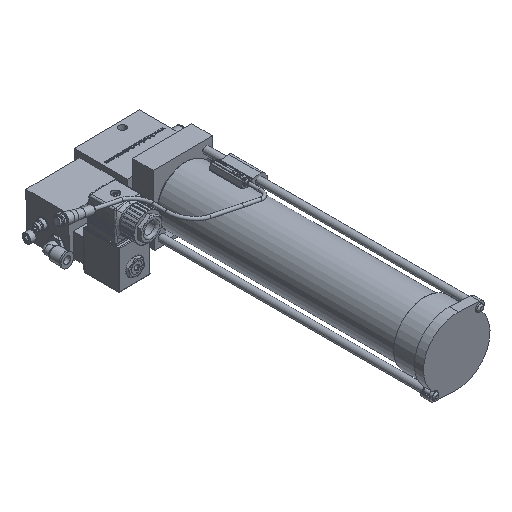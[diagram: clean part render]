
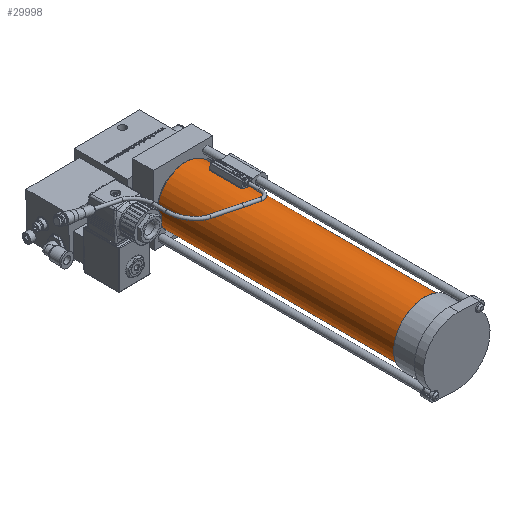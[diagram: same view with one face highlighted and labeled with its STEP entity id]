
A CAD part, isometric view. The second image highlights one B-rep face of the part: STEP entity #29998.
In plain terms, the highlighted cylindrical face has radius 26.5 mm (diameter 53 mm), a full revolution.
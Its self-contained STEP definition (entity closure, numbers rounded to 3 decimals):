
#2707 = CARTESIAN_POINT ( 'NONE',  ( 0., 0., 0. ) ) ;
#3166 = ORIENTED_EDGE ( 'NONE', *, *, #39218, .T. ) ;
#5753 = AXIS2_PLACEMENT_3D ( 'NONE', #44787, #30554, #22572 ) ;
#7218 = DIRECTION ( 'NONE',  ( 0., 0., 1. ) ) ;
#8063 = EDGE_LOOP ( 'NONE', ( #47138 ) ) ;
#13701 = CYLINDRICAL_SURFACE ( 'NONE', #5753, 26.5 ) ;
#17212 = CARTESIAN_POINT ( 'NONE',  ( 0., 0., 244. ) ) ;
#18024 = FACE_OUTER_BOUND ( 'NONE', #39129, .T. ) ;
#20502 = CIRCLE ( 'NONE', #34109, 26.5 ) ;
#20910 = DIRECTION ( 'NONE',  ( 0., 0., -1. ) ) ;
#21255 = AXIS2_PLACEMENT_3D ( 'NONE', #17212, #20910, #34564 ) ;
#21885 = CARTESIAN_POINT ( 'NONE',  ( 26.5, 0., 0. ) ) ;
#22572 = DIRECTION ( 'NONE',  ( -1., 0., 0. ) ) ;
#26135 = VERTEX_POINT ( 'NONE', #26988 ) ;
#26988 = CARTESIAN_POINT ( 'NONE',  ( 26.5, 0., 244. ) ) ;
#29998 = ADVANCED_FACE ( 'NONE', ( #18024, #36217 ), #13701, .T. ) ;
#30554 = DIRECTION ( 'NONE',  ( 0., 0., -1. ) ) ;
#34109 = AXIS2_PLACEMENT_3D ( 'NONE', #2707, #7218, #49686 ) ;
#34564 = DIRECTION ( 'NONE',  ( 1., 0., 0. ) ) ;
#36217 = FACE_OUTER_BOUND ( 'NONE', #8063, .T. ) ;
#37042 = EDGE_CURVE ( 'NONE', #44105, #44105, #20502, .T. ) ;
#39129 = EDGE_LOOP ( 'NONE', ( #3166 ) ) ;
#39218 = EDGE_CURVE ( 'NONE', #26135, #26135, #44915, .T. ) ;
#44105 = VERTEX_POINT ( 'NONE', #21885 ) ;
#44787 = CARTESIAN_POINT ( 'NONE',  ( 0., 0., 245. ) ) ;
#44915 = CIRCLE ( 'NONE', #21255, 26.5 ) ;
#47138 = ORIENTED_EDGE ( 'NONE', *, *, #37042, .T. ) ;
#49686 = DIRECTION ( 'NONE',  ( 1., 0., 0. ) ) ;
